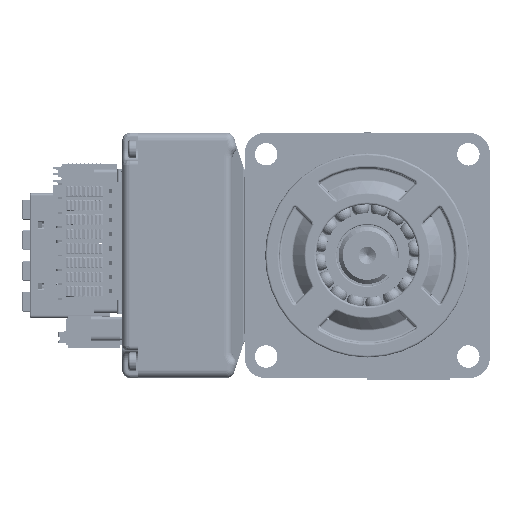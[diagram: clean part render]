
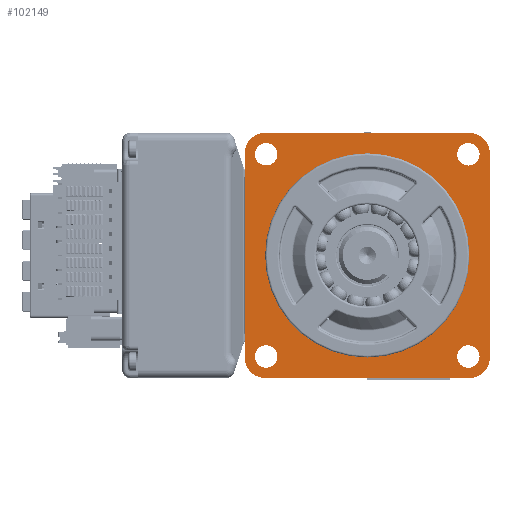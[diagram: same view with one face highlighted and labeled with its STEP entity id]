
A CAD part, front view. The second image highlights one B-rep face of the part: STEP entity #102149.
In plain terms, the highlighted planar face has unit normal (0, -1, 0).
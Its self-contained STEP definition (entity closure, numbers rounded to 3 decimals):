
#98700=DIRECTION('',(-1.,0.,0.));
#98701=VECTOR('',#98700,50.);
#98702=CARTESIAN_POINT('',(25.,-33.5,30.));
#98703=LINE('',#98702,#98701);
#98758=DIRECTION('',(0.,0.,-1.));
#98759=VECTOR('',#98758,50.);
#98760=CARTESIAN_POINT('',(-30.,-33.5,25.));
#98761=LINE('',#98760,#98759);
#98901=CARTESIAN_POINT('',(-25.,-33.5,25.));
#98902=DIRECTION('',(0.,1.,0.));
#98903=DIRECTION('',(-1.,0.,0.));
#98904=AXIS2_PLACEMENT_3D('',#98901,#98902,#98903);
#98906=CARTESIAN_POINT('',(25.,-33.5,25.));
#98907=DIRECTION('',(0.,1.,0.));
#98908=DIRECTION('',(0.,0.,1.));
#98909=AXIS2_PLACEMENT_3D('',#98906,#98907,#98908);
#98911=CARTESIAN_POINT('',(25.,-33.5,-25.));
#98912=DIRECTION('',(0.,1.,0.));
#98913=DIRECTION('',(1.,0.,0.));
#98914=AXIS2_PLACEMENT_3D('',#98911,#98912,#98913);
#98916=CARTESIAN_POINT('',(-25.,-33.5,-25.));
#98917=DIRECTION('',(0.,1.,0.));
#98918=DIRECTION('',(0.,0.,-1.));
#98919=AXIS2_PLACEMENT_3D('',#98916,#98917,#98918);
#98921=CARTESIAN_POINT('',(-24.749,-33.5,-24.749));
#98922=DIRECTION('',(0.,-1.,0.));
#98923=DIRECTION('',(1.,0.,0.));
#98924=AXIS2_PLACEMENT_3D('',#98921,#98922,#98923);
#98926=CARTESIAN_POINT('',(-24.749,-33.5,-24.749));
#98927=DIRECTION('',(0.,-1.,0.));
#98928=DIRECTION('',(-1.,0.,0.));
#98929=AXIS2_PLACEMENT_3D('',#98926,#98927,#98928);
#98931=CARTESIAN_POINT('',(24.749,-33.5,-24.749));
#98932=DIRECTION('',(0.,-1.,0.));
#98933=DIRECTION('',(1.,0.,0.));
#98934=AXIS2_PLACEMENT_3D('',#98931,#98932,#98933);
#98936=CARTESIAN_POINT('',(24.749,-33.5,-24.749));
#98937=DIRECTION('',(0.,-1.,0.));
#98938=DIRECTION('',(-1.,0.,0.));
#98939=AXIS2_PLACEMENT_3D('',#98936,#98937,#98938);
#98941=CARTESIAN_POINT('',(24.749,-33.5,24.749));
#98942=DIRECTION('',(0.,-1.,0.));
#98943=DIRECTION('',(1.,0.,0.));
#98944=AXIS2_PLACEMENT_3D('',#98941,#98942,#98943);
#98946=CARTESIAN_POINT('',(24.749,-33.5,24.749));
#98947=DIRECTION('',(0.,-1.,0.));
#98948=DIRECTION('',(-1.,0.,0.));
#98949=AXIS2_PLACEMENT_3D('',#98946,#98947,#98948);
#98951=CARTESIAN_POINT('',(-24.749,-33.5,24.749));
#98952=DIRECTION('',(0.,-1.,0.));
#98953=DIRECTION('',(1.,0.,0.));
#98954=AXIS2_PLACEMENT_3D('',#98951,#98952,#98953);
#98956=CARTESIAN_POINT('',(-24.749,-33.5,24.749));
#98957=DIRECTION('',(0.,-1.,0.));
#98958=DIRECTION('',(-1.,0.,0.));
#98959=AXIS2_PLACEMENT_3D('',#98956,#98957,#98958);
#98961=CARTESIAN_POINT('',(0.,-33.5,0.));
#98962=DIRECTION('',(0.,-1.,0.));
#98963=DIRECTION('',(1.,0.,0.));
#98964=AXIS2_PLACEMENT_3D('',#98961,#98962,#98963);
#98966=CARTESIAN_POINT('',(0.,-33.5,0.));
#98967=DIRECTION('',(0.,-1.,0.));
#98968=DIRECTION('',(-1.,0.,0.));
#98969=AXIS2_PLACEMENT_3D('',#98966,#98967,#98968);
#99033=DIRECTION('',(0.,0.,1.));
#99034=VECTOR('',#99033,50.);
#99035=CARTESIAN_POINT('',(30.,-33.5,-25.));
#99036=LINE('',#99035,#99034);
#99169=DIRECTION('',(1.,0.,0.));
#99170=VECTOR('',#99169,50.);
#99171=CARTESIAN_POINT('',(-25.,-33.5,-30.));
#99172=LINE('',#99171,#99170);
#101191=CARTESIAN_POINT('',(-21.999,-33.5,24.749));
#101192=VERTEX_POINT('',#101191);
#101193=CARTESIAN_POINT('',(-27.499,-33.5,24.749));
#101194=VERTEX_POINT('',#101193);
#101221=CARTESIAN_POINT('',(25.,-33.5,30.));
#101222=VERTEX_POINT('',#101221);
#101223=CARTESIAN_POINT('',(-25.,-33.5,30.));
#101224=VERTEX_POINT('',#101223);
#101300=CARTESIAN_POINT('',(-30.,-33.5,25.));
#101301=VERTEX_POINT('',#101300);
#101302=CARTESIAN_POINT('',(-30.,-33.5,-25.));
#101303=VERTEX_POINT('',#101302);
#101314=CARTESIAN_POINT('',(30.,-33.5,25.));
#101315=VERTEX_POINT('',#101314);
#101316=CARTESIAN_POINT('',(30.,-33.5,-25.));
#101317=VERTEX_POINT('',#101316);
#101318=CARTESIAN_POINT('',(25.,-33.5,-30.));
#101319=VERTEX_POINT('',#101318);
#101320=CARTESIAN_POINT('',(-25.,-33.5,-30.));
#101321=VERTEX_POINT('',#101320);
#101322=CARTESIAN_POINT('',(-21.999,-33.5,-24.749));
#101323=CARTESIAN_POINT('',(-27.499,-33.5,-24.749));
#101324=VERTEX_POINT('',#101322);
#101325=VERTEX_POINT('',#101323);
#101326=CARTESIAN_POINT('',(27.499,-33.5,-24.749));
#101327=CARTESIAN_POINT('',(21.999,-33.5,-24.749));
#101328=VERTEX_POINT('',#101326);
#101329=VERTEX_POINT('',#101327);
#101330=CARTESIAN_POINT('',(27.499,-33.5,24.749));
#101331=CARTESIAN_POINT('',(21.999,-33.5,24.749));
#101332=VERTEX_POINT('',#101330);
#101333=VERTEX_POINT('',#101331);
#101334=CARTESIAN_POINT('',(25.,-33.5,0.));
#101335=CARTESIAN_POINT('',(-25.,-33.5,0.));
#101336=VERTEX_POINT('',#101334);
#101337=VERTEX_POINT('',#101335);
#102100=CARTESIAN_POINT('',(0.,-33.5,0.));
#102101=DIRECTION('',(0.,-1.,0.));
#102102=DIRECTION('',(1.,0.,0.));
#102103=AXIS2_PLACEMENT_3D('',#102100,#102101,#102102);
#102104=PLANE('',#102103);
#102105=ORIENTED_EDGE('',*,*,#101953,.F.);
#102106=ORIENTED_EDGE('',*,*,#102094,.T.);
#102107=ORIENTED_EDGE('',*,*,#101826,.F.);
#102109=ORIENTED_EDGE('',*,*,#102108,.T.);
#102111=ORIENTED_EDGE('',*,*,#102110,.F.);
#102113=ORIENTED_EDGE('',*,*,#102112,.T.);
#102115=ORIENTED_EDGE('',*,*,#102114,.F.);
#102117=ORIENTED_EDGE('',*,*,#102116,.T.);
#102118=EDGE_LOOP('',(#102105,#102106,#102107,#102109,#102111,#102113,#102115,
#102117));
#102119=FACE_OUTER_BOUND('',#102118,.F.);
#102121=ORIENTED_EDGE('',*,*,#102120,.T.);
#102123=ORIENTED_EDGE('',*,*,#102122,.T.);
#102124=EDGE_LOOP('',(#102121,#102123));
#102125=FACE_BOUND('',#102124,.F.);
#102127=ORIENTED_EDGE('',*,*,#102126,.T.);
#102129=ORIENTED_EDGE('',*,*,#102128,.T.);
#102130=EDGE_LOOP('',(#102127,#102129));
#102131=FACE_BOUND('',#102130,.F.);
#102133=ORIENTED_EDGE('',*,*,#102132,.T.);
#102135=ORIENTED_EDGE('',*,*,#102134,.T.);
#102136=EDGE_LOOP('',(#102133,#102135));
#102137=FACE_BOUND('',#102136,.F.);
#102139=ORIENTED_EDGE('',*,*,#102138,.T.);
#102140=ORIENTED_EDGE('',*,*,#101764,.T.);
#102141=EDGE_LOOP('',(#102139,#102140));
#102142=FACE_BOUND('',#102141,.F.);
#102144=ORIENTED_EDGE('',*,*,#102143,.T.);
#102146=ORIENTED_EDGE('',*,*,#102145,.T.);
#102147=EDGE_LOOP('',(#102144,#102146));
#102148=FACE_BOUND('',#102147,.F.);
#102149=ADVANCED_FACE('',(#102119,#102125,#102131,#102137,#102142,#102148),
#102104,.T.);
#98905=CIRCLE('',#98904,5.);
#98910=CIRCLE('',#98909,5.);
#98915=CIRCLE('',#98914,5.);
#98920=CIRCLE('',#98919,5.);
#98925=CIRCLE('',#98924,2.75);
#98930=CIRCLE('',#98929,2.75);
#98935=CIRCLE('',#98934,2.75);
#98940=CIRCLE('',#98939,2.75);
#98945=CIRCLE('',#98944,2.75);
#98950=CIRCLE('',#98949,2.75);
#98955=CIRCLE('',#98954,2.75);
#98960=CIRCLE('',#98959,2.75);
#98965=CIRCLE('',#98964,25.);
#98970=CIRCLE('',#98969,25.);
#101764=EDGE_CURVE('',#101194,#101192,#98960,.T.);
#101826=EDGE_CURVE('',#101222,#101224,#98703,.T.);
#101953=EDGE_CURVE('',#101301,#101303,#98761,.T.);
#102094=EDGE_CURVE('',#101301,#101224,#98905,.T.);
#102108=EDGE_CURVE('',#101222,#101315,#98910,.T.);
#102110=EDGE_CURVE('',#101317,#101315,#99036,.T.);
#102112=EDGE_CURVE('',#101317,#101319,#98915,.T.);
#102114=EDGE_CURVE('',#101321,#101319,#99172,.T.);
#102116=EDGE_CURVE('',#101321,#101303,#98920,.T.);
#102120=EDGE_CURVE('',#101324,#101325,#98925,.T.);
#102122=EDGE_CURVE('',#101325,#101324,#98930,.T.);
#102126=EDGE_CURVE('',#101328,#101329,#98935,.T.);
#102128=EDGE_CURVE('',#101329,#101328,#98940,.T.);
#102132=EDGE_CURVE('',#101332,#101333,#98945,.T.);
#102134=EDGE_CURVE('',#101333,#101332,#98950,.T.);
#102138=EDGE_CURVE('',#101192,#101194,#98955,.T.);
#102143=EDGE_CURVE('',#101336,#101337,#98965,.T.);
#102145=EDGE_CURVE('',#101337,#101336,#98970,.T.);
